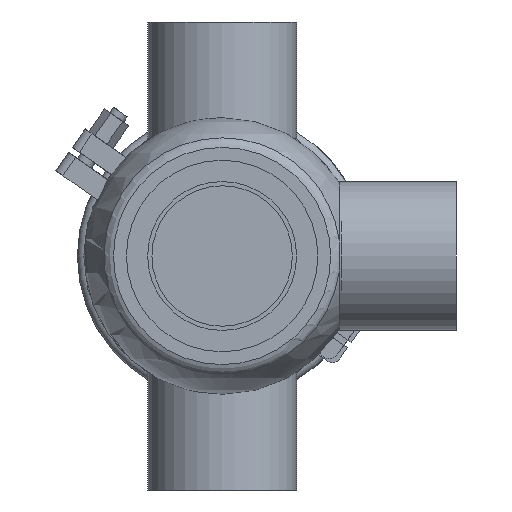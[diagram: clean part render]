
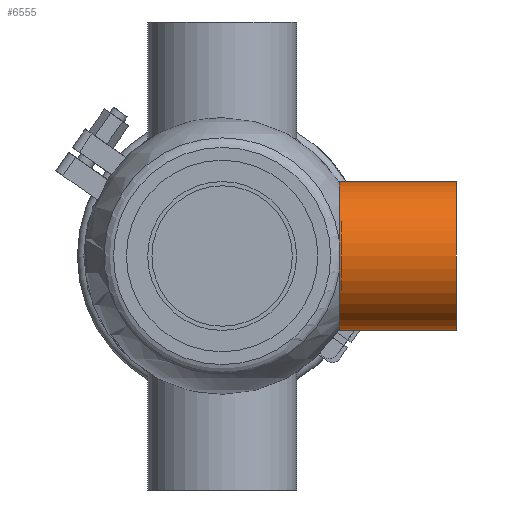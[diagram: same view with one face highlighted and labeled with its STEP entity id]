
A CAD part, front view. The second image highlights one B-rep face of the part: STEP entity #6555.
In plain terms, the highlighted cylindrical face has radius 35 mm (diameter 70 mm), a full revolution.
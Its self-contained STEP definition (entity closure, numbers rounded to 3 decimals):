
#659 = CARTESIAN_POINT ( 'NONE',  ( 0., 0., 0. ) ) ;
#1724 = DIRECTION ( 'NONE',  ( -1., 0., 0. ) ) ;
#2510 = FACE_OUTER_BOUND ( 'NONE', #3135, .T. ) ;
#3135 = EDGE_LOOP ( 'NONE', ( #18970 ) ) ;
#3638 = CIRCLE ( 'NONE', #5381, 35. ) ;
#3939 = DIRECTION ( 'NONE',  ( -1., 0., 0. ) ) ;
#4278 = VERTEX_POINT ( 'NONE', #19142 ) ;
#5381 = AXIS2_PLACEMENT_3D ( 'NONE', #16470, #13312, #14929 ) ;
#6555 = ADVANCED_FACE ( 'NONE', ( #17484, #2510 ), #15757, .T. ) ;
#6917 = EDGE_CURVE ( 'NONE', #4278, #4278, #3638, .T. ) ;
#8889 = EDGE_LOOP ( 'NONE', ( #9491 ) ) ;
#9473 = CIRCLE ( 'NONE', #12206, 35. ) ;
#9491 = ORIENTED_EDGE ( 'NONE', *, *, #6917, .T. ) ;
#9700 = EDGE_CURVE ( 'NONE', #20879, #20879, #9473, .T. ) ;
#12206 = AXIS2_PLACEMENT_3D ( 'NONE', #16616, #1724, #16399 ) ;
#13312 = DIRECTION ( 'NONE',  ( -1., 0., 0. ) ) ;
#14347 = AXIS2_PLACEMENT_3D ( 'NONE', #659, #3939, #17283 ) ;
#14929 = DIRECTION ( 'NONE',  ( 0., 0., 1. ) ) ;
#15757 = CYLINDRICAL_SURFACE ( 'NONE', #14347, 35. ) ;
#16399 = DIRECTION ( 'NONE',  ( 0., 0., 1. ) ) ;
#16470 = CARTESIAN_POINT ( 'NONE',  ( 110., 0., 0. ) ) ;
#16616 = CARTESIAN_POINT ( 'NONE',  ( 55., 0., 0. ) ) ;
#17283 = DIRECTION ( 'NONE',  ( 0., 0., 1. ) ) ;
#17484 = FACE_OUTER_BOUND ( 'NONE', #8889, .T. ) ;
#18970 = ORIENTED_EDGE ( 'NONE', *, *, #9700, .F. ) ;
#19142 = CARTESIAN_POINT ( 'NONE',  ( 110., 0., 35. ) ) ;
#19373 = CARTESIAN_POINT ( 'NONE',  ( 55., 0., 35. ) ) ;
#20879 = VERTEX_POINT ( 'NONE', #19373 ) ;
